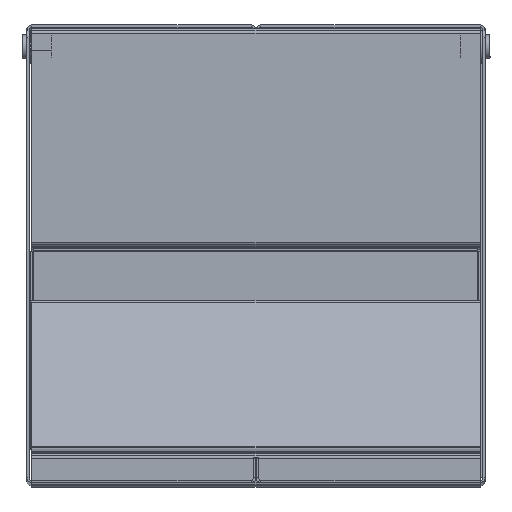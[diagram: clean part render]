
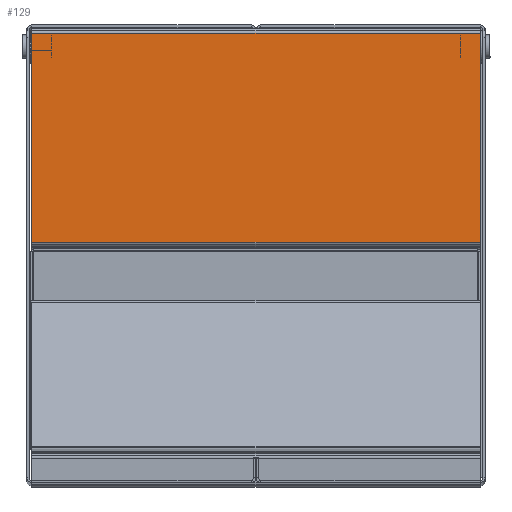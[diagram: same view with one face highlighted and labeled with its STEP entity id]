
A CAD part, top view. The second image highlights one B-rep face of the part: STEP entity #129.
In plain terms, the highlighted planar face has unit normal (0, 0, 1) as drawn and (0, 1, 0) by its records, which use the part's own axes.
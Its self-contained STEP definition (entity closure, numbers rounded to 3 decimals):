
#129=ADVANCED_FACE($,(#420),#3217,.T.);
#420=FACE_OUTER_BOUND($,#713,.T.);
#713=EDGE_LOOP($,(#1043,#1044,#1045,#1046));
#1043=ORIENTED_EDGE($,*,*,#2262,.T.);
#1044=ORIENTED_EDGE($,*,*,#2268,.F.);
#1045=ORIENTED_EDGE($,*,*,#2264,.T.);
#1046=ORIENTED_EDGE($,*,*,#2267,.F.);
#2262=EDGE_CURVE($,#2874,#2876,#3509,.T.);
#2264=EDGE_CURVE($,#2879,#2877,#3511,.T.);
#2267=EDGE_CURVE($,#2874,#2877,#3514,.T.);
#2268=EDGE_CURVE($,#2879,#2876,#3515,.T.);
#2874=VERTEX_POINT($,#6171);
#2876=VERTEX_POINT($,#6173);
#2877=VERTEX_POINT($,#6174);
#2879=VERTEX_POINT($,#6176);
#3217=PLANE($,#5187);
#3509=B_SPLINE_CURVE_WITH_KNOTS($,1,(#5822,#5823),.UNSPECIFIED.,.F.,.F.,
(2,2),(0.,87.4),.UNSPECIFIED.);
#3511=B_SPLINE_CURVE_WITH_KNOTS($,1,(#5826,#5827),.UNSPECIFIED.,.F.,.F.,
(2,2),(0.,87.4),.UNSPECIFIED.);
#3514=B_SPLINE_CURVE_WITH_KNOTS($,1,(#5832,#5833),.UNSPECIFIED.,.F.,.F.,
(2,2),(-188.,0.),.UNSPECIFIED.);
#3515=B_SPLINE_CURVE_WITH_KNOTS($,1,(#5834,#5835),.UNSPECIFIED.,.F.,.F.,
(2,2),(0.,188.),.UNSPECIFIED.);
#5187=AXIS2_PLACEMENT_3D($,#6058,#5443,$);
#5443=DIRECTION($,(0.,1.,0.));
#5822=CARTESIAN_POINT($,(-94.,101.5,-132.7));
#5823=CARTESIAN_POINT($,(-94.,101.5,-45.3));
#5826=CARTESIAN_POINT($,(94.,101.5,-45.3));
#5827=CARTESIAN_POINT($,(94.,101.5,-132.7));
#5832=CARTESIAN_POINT($,(-94.,101.5,-132.7));
#5833=CARTESIAN_POINT($,(94.,101.5,-132.7));
#5834=CARTESIAN_POINT($,(94.,101.5,-45.3));
#5835=CARTESIAN_POINT($,(-94.,101.5,-45.3));
#6058=CARTESIAN_POINT($,(-94.,101.5,-45.3));
#6171=CARTESIAN_POINT($,(-94.,101.5,-132.7));
#6173=CARTESIAN_POINT($,(-94.,101.5,-45.3));
#6174=CARTESIAN_POINT($,(94.,101.5,-132.7));
#6176=CARTESIAN_POINT($,(94.,101.5,-45.3));
